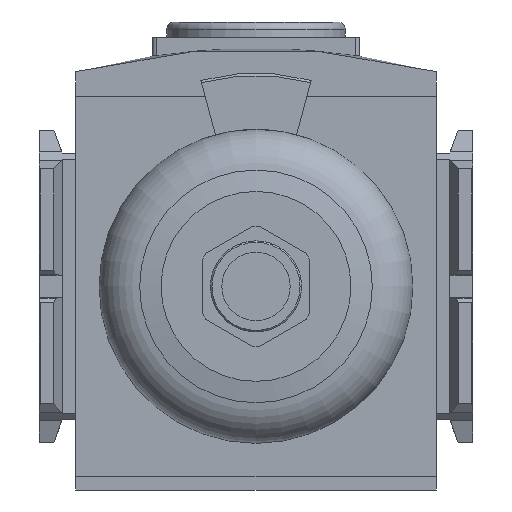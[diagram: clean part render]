
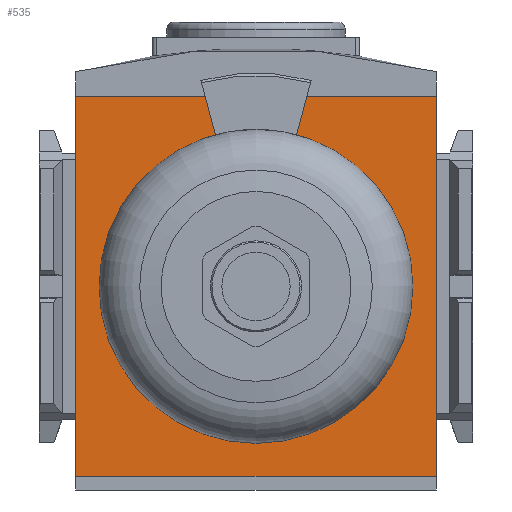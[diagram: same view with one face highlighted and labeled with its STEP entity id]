
A CAD part, front view. The second image highlights one B-rep face of the part: STEP entity #535.
In plain terms, the highlighted planar face has unit normal (0, -1, 0) as drawn and (0, 1, 0) by its records, which use the part's own axes.
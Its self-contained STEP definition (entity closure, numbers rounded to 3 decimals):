
#535 = ADVANCED_FACE( '', ( #1209, #1210 ), #1211, .T. );
#1209 = FACE_BOUND( '', #2033, .T. );
#1210 = FACE_OUTER_BOUND( '', #2034, .T. );
#1211 = PLANE( '', #2035 );
#2033 = EDGE_LOOP( '', ( #3588 ) );
#2034 = EDGE_LOOP( '', ( #3589, #3590, #3591, #3592 ) );
#2035 = AXIS2_PLACEMENT_3D( '', #3593, #3594, #3595 );
#3588 = ORIENTED_EDGE( '', *, *, #5409, .T. );
#3589 = ORIENTED_EDGE( '', *, *, #5318, .T. );
#3590 = ORIENTED_EDGE( '', *, *, #4818, .T. );
#3591 = ORIENTED_EDGE( '', *, *, #5065, .T. );
#3592 = ORIENTED_EDGE( '', *, *, #5410, .T. );
#3593 = CARTESIAN_POINT( '', ( 0., 32., 0. ) );
#3594 = DIRECTION( '', ( 0., 1., 0. ) );
#3595 = DIRECTION( '', ( 0., 0., 1. ) );
#4818 = EDGE_CURVE( '', #5741, #5739, #5742, .T. );
#5065 = EDGE_CURVE( '', #5739, #6172, #6174, .T. );
#5318 = EDGE_CURVE( '', #6571, #5741, #6572, .T. );
#5409 = EDGE_CURVE( '', #6705, #6705, #6706, .T. );
#5410 = EDGE_CURVE( '', #6172, #6571, #6707, .T. );
#5739 = VERTEX_POINT( '', #7107 );
#5741 = VERTEX_POINT( '', #7110 );
#5742 = LINE( '', #7111, #7112 );
#6172 = VERTEX_POINT( '', #7716 );
#6174 = LINE( '', #7719, #7720 );
#6571 = VERTEX_POINT( '', #8249 );
#6572 = LINE( '', #8250, #8251 );
#6705 = VERTEX_POINT( '', #8429 );
#6706 = CIRCLE( '', #8430, 20.661 );
#6707 = LINE( '', #8431, #8432 );
#7107 = CARTESIAN_POINT( '', ( 23.75, 32., 25. ) );
#7110 = CARTESIAN_POINT( '', ( -23.75, 32., 25. ) );
#7111 = CARTESIAN_POINT( '', ( -23.75, 32., 25. ) );
#7112 = VECTOR( '', #8932, 1000. );
#7716 = CARTESIAN_POINT( '', ( 23.75, 32., -25. ) );
#7719 = CARTESIAN_POINT( '', ( 23.75, 32., 25. ) );
#7720 = VECTOR( '', #9195, 1000. );
#8249 = CARTESIAN_POINT( '', ( -23.75, 32., -25. ) );
#8250 = CARTESIAN_POINT( '', ( -23.75, 32., -25. ) );
#8251 = VECTOR( '', #9538, 1000. );
#8429 = CARTESIAN_POINT( '', ( 0., 32., -20.661 ) );
#8430 = AXIS2_PLACEMENT_3D( '', #9644, #9645, #9646 );
#8431 = CARTESIAN_POINT( '', ( 23.75, 32., -25. ) );
#8432 = VECTOR( '', #9647, 1000. );
#8932 = DIRECTION( '', ( 1., 0., 0. ) );
#9195 = DIRECTION( '', ( 0., 0., -1. ) );
#9538 = DIRECTION( '', ( 0., 0., 1. ) );
#9644 = CARTESIAN_POINT( '', ( 0., 32., 0. ) );
#9645 = DIRECTION( '', ( 0., -1., 0. ) );
#9646 = DIRECTION( '', ( 0., 0., -1. ) );
#9647 = DIRECTION( '', ( -1., 0., 0. ) );
